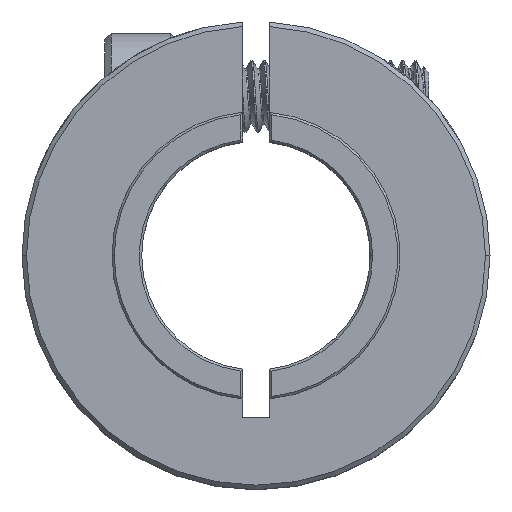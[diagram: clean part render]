
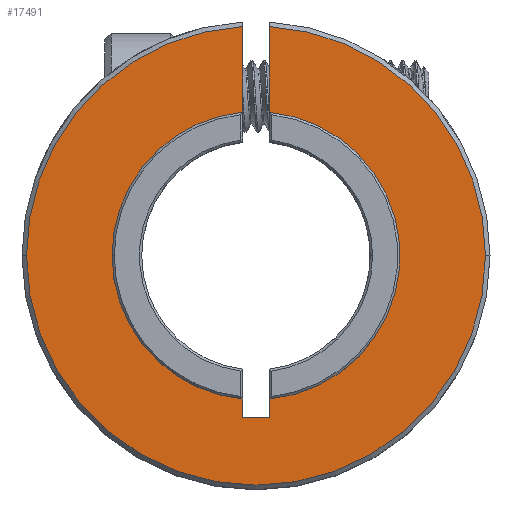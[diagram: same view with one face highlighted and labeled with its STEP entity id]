
A CAD part, top view. The second image highlights one B-rep face of the part: STEP entity #17491.
In plain terms, the highlighted planar face has unit normal (0, 0, 1).
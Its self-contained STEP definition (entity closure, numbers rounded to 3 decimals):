
#32 = DIRECTION ( 'NONE',  ( 1., 0., 0. ) ) ;
#47 = DIRECTION ( 'NONE',  ( 0., 1., 0. ) ) ;
#163 = ORIENTED_EDGE ( 'NONE', *, *, #767, .F. ) ;
#369 = DIRECTION ( 'NONE',  ( 1., 0., 0. ) ) ;
#608 = VERTEX_POINT ( 'NONE', #22152 ) ;
#767 = EDGE_CURVE ( 'NONE', #2932, #22460, #2759, .T. ) ;
#1165 = VERTEX_POINT ( 'NONE', #1410 ) ;
#1410 = CARTESIAN_POINT ( 'NONE',  ( 12.75, 0., 4.5 ) ) ;
#1434 = DIRECTION ( 'NONE',  ( 0., 0., 1. ) ) ;
#1552 = CARTESIAN_POINT ( 'NONE',  ( 0., 0., 4.5 ) ) ;
#1854 = VERTEX_POINT ( 'NONE', #21544 ) ;
#2759 = CIRCLE ( 'NONE', #10732, 8. ) ;
#2783 = ORIENTED_EDGE ( 'NONE', *, *, #8388, .F. ) ;
#2932 = VERTEX_POINT ( 'NONE', #8049 ) ;
#3248 = CARTESIAN_POINT ( 'NONE',  ( -8., 0., 4.5 ) ) ;
#3295 = LINE ( 'NONE', #14023, #21782 ) ;
#3876 = EDGE_CURVE ( 'NONE', #608, #16788, #19066, .T. ) ;
#4922 = DIRECTION ( 'NONE',  ( 0., -1., 0. ) ) ;
#5036 = CARTESIAN_POINT ( 'NONE',  ( 0.75, -9., 4.5 ) ) ;
#5673 = CARTESIAN_POINT ( 'NONE',  ( -0.75, 0., 4.5 ) ) ;
#5677 = CARTESIAN_POINT ( 'NONE',  ( 0., 0., 4.5 ) ) ;
#5883 = DIRECTION ( 'NONE',  ( 1., 0., 0. ) ) ;
#5902 = VERTEX_POINT ( 'NONE', #5036 ) ;
#6017 = AXIS2_PLACEMENT_3D ( 'NONE', #5677, #21259, #369 ) ;
#6186 = VERTEX_POINT ( 'NONE', #19378 ) ;
#6694 = EDGE_CURVE ( 'NONE', #1854, #17079, #18263, .T. ) ;
#6935 = AXIS2_PLACEMENT_3D ( 'NONE', #22819, #10414, #22661 ) ;
#6972 = CARTESIAN_POINT ( 'NONE',  ( 0., 0., 4.5 ) ) ;
#7294 = ORIENTED_EDGE ( 'NONE', *, *, #13950, .T. ) ;
#7895 = CARTESIAN_POINT ( 'NONE',  ( 0., 0., 4.5 ) ) ;
#8049 = CARTESIAN_POINT ( 'NONE',  ( -0.75, 7.965, 4.5 ) ) ;
#8118 = PLANE ( 'NONE',  #15049 ) ;
#8167 = AXIS2_PLACEMENT_3D ( 'NONE', #1552, #18981, #17507 ) ;
#8281 = ORIENTED_EDGE ( 'NONE', *, *, #6694, .T. ) ;
#8388 = EDGE_CURVE ( 'NONE', #5902, #19943, #9144, .T. ) ;
#8653 = ORIENTED_EDGE ( 'NONE', *, *, #18106, .F. ) ;
#8749 = VECTOR ( 'NONE', #4922, 1000. ) ;
#8795 = CIRCLE ( 'NONE', #8167, 12.75 ) ;
#9144 = LINE ( 'NONE', #10367, #12715 ) ;
#9509 = ORIENTED_EDGE ( 'NONE', *, *, #18978, .T. ) ;
#9656 = VECTOR ( 'NONE', #12852, 1000. ) ;
#9796 = CIRCLE ( 'NONE', #10814, 8. ) ;
#10161 = CARTESIAN_POINT ( 'NONE',  ( 0.75, 0., 4.5 ) ) ;
#10307 = CARTESIAN_POINT ( 'NONE',  ( 0., 0., 4.5 ) ) ;
#10367 = CARTESIAN_POINT ( 'NONE',  ( 0.75, 0., 4.5 ) ) ;
#10414 = DIRECTION ( 'NONE',  ( 0., 0., 1. ) ) ;
#10490 = CIRCLE ( 'NONE', #11150, 12.75 ) ;
#10579 = CARTESIAN_POINT ( 'NONE',  ( -12.75, 0., 4.5 ) ) ;
#10732 = AXIS2_PLACEMENT_3D ( 'NONE', #16316, #13108, #5883 ) ;
#10814 = AXIS2_PLACEMENT_3D ( 'NONE', #6972, #1434, #19175 ) ;
#10934 = LINE ( 'NONE', #5673, #21423 ) ;
#11027 = EDGE_CURVE ( 'NONE', #17079, #1165, #10490, .T. ) ;
#11150 = AXIS2_PLACEMENT_3D ( 'NONE', #10307, #15764, #22793 ) ;
#11487 = CIRCLE ( 'NONE', #6017, 8. ) ;
#12188 = EDGE_CURVE ( 'NONE', #608, #5902, #3295, .T. ) ;
#12715 = VECTOR ( 'NONE', #47, 1000. ) ;
#12852 = DIRECTION ( 'NONE',  ( 0., 1., 0. ) ) ;
#13108 = DIRECTION ( 'NONE',  ( 0., 0., 1. ) ) ;
#13950 = EDGE_CURVE ( 'NONE', #1165, #19387, #8795, .T. ) ;
#14023 = CARTESIAN_POINT ( 'NONE',  ( 0., -9., 4.5 ) ) ;
#14571 = CARTESIAN_POINT ( 'NONE',  ( -0.75, 0., 4.5 ) ) ;
#15049 = AXIS2_PLACEMENT_3D ( 'NONE', #7895, #16787, #21881 ) ;
#15230 = ORIENTED_EDGE ( 'NONE', *, *, #22067, .F. ) ;
#15294 = ORIENTED_EDGE ( 'NONE', *, *, #21523, .F. ) ;
#15764 = DIRECTION ( 'NONE',  ( 0., 0., 1. ) ) ;
#16316 = CARTESIAN_POINT ( 'NONE',  ( 0., 0., 4.5 ) ) ;
#16787 = DIRECTION ( 'NONE',  ( 0., 0., 1. ) ) ;
#16788 = VERTEX_POINT ( 'NONE', #19303 ) ;
#17079 = VERTEX_POINT ( 'NONE', #10579 ) ;
#17491 = ADVANCED_FACE ( 'NONE', ( #20333 ), #8118, .T. ) ;
#17507 = DIRECTION ( 'NONE',  ( 1., 0., 0. ) ) ;
#18106 = EDGE_CURVE ( 'NONE', #22460, #16788, #11487, .T. ) ;
#18263 = CIRCLE ( 'NONE', #6935, 12.75 ) ;
#18978 = EDGE_CURVE ( 'NONE', #19387, #6186, #21466, .T. ) ;
#18981 = DIRECTION ( 'NONE',  ( 0., 0., 1. ) ) ;
#19066 = LINE ( 'NONE', #14571, #9656 ) ;
#19175 = DIRECTION ( 'NONE',  ( 1., 0., 0. ) ) ;
#19303 = CARTESIAN_POINT ( 'NONE',  ( -0.75, -7.965, 4.5 ) ) ;
#19378 = CARTESIAN_POINT ( 'NONE',  ( 0.75, 7.965, 4.5 ) ) ;
#19387 = VERTEX_POINT ( 'NONE', #21343 ) ;
#19943 = VERTEX_POINT ( 'NONE', #22083 ) ;
#20317 = ORIENTED_EDGE ( 'NONE', *, *, #12188, .F. ) ;
#20333 = FACE_OUTER_BOUND ( 'NONE', #22842, .T. ) ;
#20486 = ORIENTED_EDGE ( 'NONE', *, *, #3876, .T. ) ;
#21259 = DIRECTION ( 'NONE',  ( 0., 0., 1. ) ) ;
#21343 = CARTESIAN_POINT ( 'NONE',  ( 0.75, 12.728, 4.5 ) ) ;
#21423 = VECTOR ( 'NONE', #21568, 1000. ) ;
#21466 = LINE ( 'NONE', #10161, #8749 ) ;
#21523 = EDGE_CURVE ( 'NONE', #19943, #6186, #9796, .T. ) ;
#21544 = CARTESIAN_POINT ( 'NONE',  ( -0.75, 12.728, 4.5 ) ) ;
#21568 = DIRECTION ( 'NONE',  ( 0., -1., 0. ) ) ;
#21782 = VECTOR ( 'NONE', #32, 1000. ) ;
#21881 = DIRECTION ( 'NONE',  ( 1., 0., 0. ) ) ;
#22067 = EDGE_CURVE ( 'NONE', #1854, #2932, #10934, .T. ) ;
#22083 = CARTESIAN_POINT ( 'NONE',  ( 0.75, -7.965, 4.5 ) ) ;
#22152 = CARTESIAN_POINT ( 'NONE',  ( -0.75, -9., 4.5 ) ) ;
#22460 = VERTEX_POINT ( 'NONE', #3248 ) ;
#22661 = DIRECTION ( 'NONE',  ( 1., 0., 0. ) ) ;
#22727 = ORIENTED_EDGE ( 'NONE', *, *, #11027, .T. ) ;
#22793 = DIRECTION ( 'NONE',  ( 1., 0., 0. ) ) ;
#22819 = CARTESIAN_POINT ( 'NONE',  ( 0., 0., 4.5 ) ) ;
#22842 = EDGE_LOOP ( 'NONE', ( #15230, #8281, #22727, #7294, #9509, #15294, #2783, #20317, #20486, #8653, #163 ) ) ;
